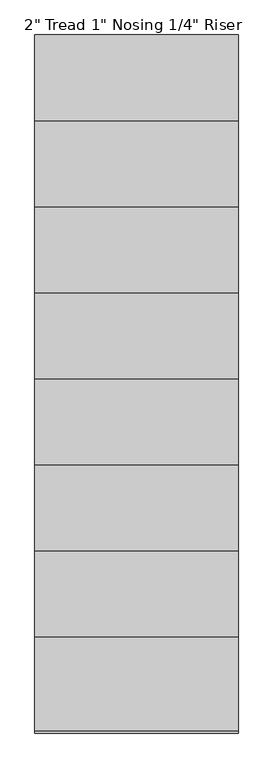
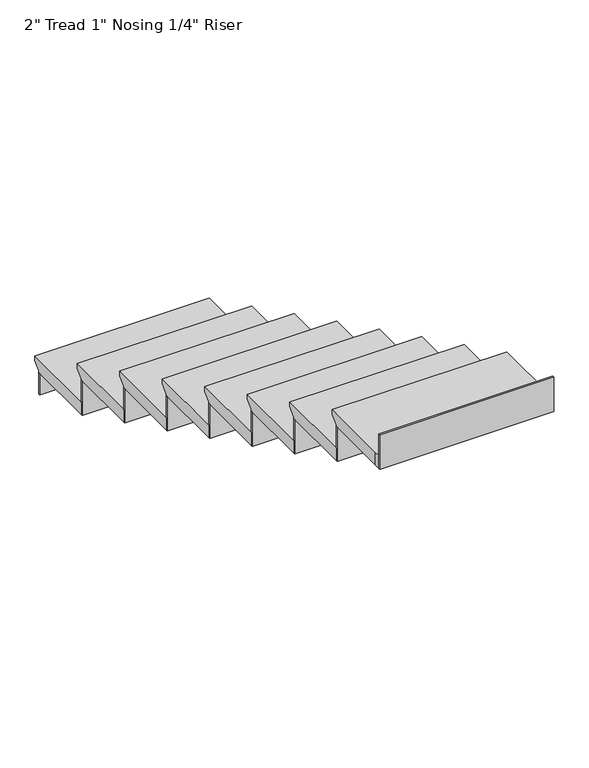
"""IFC4 building model written with IfcOpenShell, lengths in millimetres: stair flight geometry."""

from ifc_helpers import new_model, si_unit, origin, place, context, project, spatial, faceted_brep, source, transform, mapped, element, save


def stair_flight_d539902c(model_context):
    return source(origin(), model_context, "Body", "Brep", [
        faceted_brep([(-2725.6477709, -3047.8926766, 119.4954545), (-2725.6477709, -3047.8926766, 138.5454545), (-2064.400324, -3047.8926766, 138.5454545), (-2064.400324, -3047.8926766, 119.4954545), (-2725.6477709, -3073.2926766, 94.0954545), (-2064.400324, -3073.2926766, 94.0954545), (-2725.6477709, -3352.6926766, 138.5454545), (-2064.400324, -3352.6926766, 138.5454545), (-2064.400324, -3073.2926766, 87.7454545), (-2064.400324, -3352.6926766, 87.7454545), (-2725.6477709, -3352.6926766, 87.7454545), (-2725.6477709, -3073.2926766, 87.7454545)], [[[0, 1, 2, 3]], [[4, 0, 3, 5]], [[2, 1, 6, 7]], [[8, 9, 10, 11]], [[2, 7, 9, 8, 5, 3]], [[8, 11, 4, 5]], [[6, 1, 0, 4, 11, 10]], [[7, 6, 10, 9]]]),
        faceted_brep([(-2725.6477709, -3073.2926766, 87.7454545), (-2725.6477709, -3073.2926766, 0.0), (-2725.6477709, -3079.6426766, 0.0), (-2725.6477709, -3079.6426766, 87.7454545), (-2064.400324, -3073.2926766, 87.7454545), (-2064.400324, -3079.6426766, 87.7454545), (-2064.400324, -3079.6426766, 0.0), (-2064.400324, -3073.2926766, 0.0)], [[[0, 1, 2, 3]], [[4, 5, 6, 7]], [[1, 0, 4, 7]], [[2, 1, 7, 6]], [[3, 2, 6, 5]], [[0, 3, 5, 4]]]),
        faceted_brep([(-2725.6477709, -3352.6926766, 226.2909091), (-2725.6477709, -3352.6926766, 87.7454545), (-2725.6477709, -3359.0426766, 87.7454545), (-2725.6477709, -3359.0426766, 226.2909091), (-2064.400324, -3352.6926766, 226.2909091), (-2064.400324, -3359.0426766, 226.2909091), (-2064.400324, -3359.0426766, 87.7454545), (-2064.400324, -3352.6926766, 87.7454545)], [[[0, 1, 2, 3]], [[4, 5, 6, 7]], [[1, 0, 4, 7]], [[2, 1, 7, 6]], [[3, 2, 6, 5]], [[0, 3, 5, 4]]]),
        faceted_brep([(-2064.400324, -3327.2926766, 277.0909091), (-2725.6477709, -3327.2926766, 277.0909091), (-2725.6477709, -3632.0926766, 277.0909091), (-2064.400324, -3632.0926766, 277.0909091), (-2064.400324, -3352.6926766, 226.2909091), (-2064.400324, -3632.0926766, 226.2909091), (-2725.6477709, -3632.0926766, 226.2909091), (-2725.6477709, -3352.6926766, 226.2909091), (-2064.400324, -3352.6926766, 232.6409091), (-2064.400324, -3327.2926766, 258.0409091), (-2725.6477709, -3352.6926766, 232.6409091), (-2725.6477709, -3327.2926766, 258.0409091)], [[[0, 1, 2, 3]], [[4, 5, 6, 7]], [[0, 3, 5, 4, 8, 9]], [[4, 7, 10, 8]], [[2, 1, 11, 10, 7, 6]], [[3, 2, 6, 5]], [[11, 1, 0, 9]], [[10, 11, 9, 8]]]),
        faceted_brep([(-2725.6477709, -3632.0926766, 364.8363636), (-2725.6477709, -3632.0926766, 226.2909091), (-2725.6477709, -3638.4426766, 226.2909091), (-2725.6477709, -3638.4426766, 364.8363636), (-2064.400324, -3632.0926766, 364.8363636), (-2064.400324, -3638.4426766, 364.8363636), (-2064.400324, -3638.4426766, 226.2909091), (-2064.400324, -3632.0926766, 226.2909091)], [[[0, 1, 2, 3]], [[4, 5, 6, 7]], [[1, 0, 4, 7]], [[2, 1, 7, 6]], [[3, 2, 6, 5]], [[0, 3, 5, 4]]]),
        faceted_brep([(-2064.400324, -3606.6926766, 415.6363636), (-2725.6477709, -3606.6926766, 415.6363636), (-2725.6477709, -3911.4926766, 415.6363636), (-2064.400324, -3911.4926766, 415.6363636), (-2064.400324, -3632.0926766, 364.8363636), (-2064.400324, -3911.4926766, 364.8363636), (-2725.6477709, -3911.4926766, 364.8363636), (-2725.6477709, -3632.0926766, 364.8363636), (-2064.400324, -3632.0926766, 371.1863636), (-2064.400324, -3606.6926766, 396.5863636), (-2725.6477709, -3632.0926766, 371.1863636), (-2725.6477709, -3606.6926766, 396.5863636)], [[[0, 1, 2, 3]], [[4, 5, 6, 7]], [[0, 3, 5, 4, 8, 9]], [[4, 7, 10, 8]], [[2, 1, 11, 10, 7, 6]], [[3, 2, 6, 5]], [[11, 1, 0, 9]], [[10, 11, 9, 8]]]),
        faceted_brep([(-2725.6477709, -3911.4926766, 503.3818182), (-2725.6477709, -3911.4926766, 364.8363636), (-2725.6477709, -3917.8426766, 364.8363636), (-2725.6477709, -3917.8426766, 503.3818182), (-2064.400324, -3911.4926766, 503.3818182), (-2064.400324, -3917.8426766, 503.3818182), (-2064.400324, -3917.8426766, 364.8363636), (-2064.400324, -3911.4926766, 364.8363636)], [[[0, 1, 2, 3]], [[4, 5, 6, 7]], [[1, 0, 4, 7]], [[2, 1, 7, 6]], [[3, 2, 6, 5]], [[0, 3, 5, 4]]]),
        faceted_brep([(-2064.400324, -3886.0926766, 554.1818182), (-2725.6477709, -3886.0926766, 554.1818182), (-2725.6477709, -4190.8926766, 554.1818182), (-2064.400324, -4190.8926766, 554.1818182), (-2064.400324, -3911.4926766, 503.3818182), (-2064.400324, -4190.8926766, 503.3818182), (-2725.6477709, -4190.8926766, 503.3818182), (-2725.6477709, -3911.4926766, 503.3818182), (-2064.400324, -3911.4926766, 509.7318182), (-2064.400324, -3886.0926766, 535.1318182), (-2725.6477709, -3911.4926766, 509.7318182), (-2725.6477709, -3886.0926766, 535.1318182)], [[[0, 1, 2, 3]], [[4, 5, 6, 7]], [[0, 3, 5, 4, 8, 9]], [[4, 7, 10, 8]], [[2, 1, 11, 10, 7, 6]], [[3, 2, 6, 5]], [[11, 1, 0, 9]], [[10, 11, 9, 8]]]),
        faceted_brep([(-2725.6477709, -4190.8926766, 641.9272727), (-2725.6477709, -4190.8926766, 503.3818182), (-2725.6477709, -4197.2426766, 503.3818182), (-2725.6477709, -4197.2426766, 641.9272727), (-2064.400324, -4190.8926766, 641.9272727), (-2064.400324, -4197.2426766, 641.9272727), (-2064.400324, -4197.2426766, 503.3818182), (-2064.400324, -4190.8926766, 503.3818182)], [[[0, 1, 2, 3]], [[4, 5, 6, 7]], [[1, 0, 4, 7]], [[2, 1, 7, 6]], [[3, 2, 6, 5]], [[0, 3, 5, 4]]]),
        faceted_brep([(-2064.400324, -4165.4926766, 692.7272727), (-2725.6477709, -4165.4926766, 692.7272727), (-2725.6477709, -4470.2926766, 692.7272727), (-2064.400324, -4470.2926766, 692.7272727), (-2064.400324, -4190.8926766, 641.9272727), (-2064.400324, -4470.2926766, 641.9272727), (-2725.6477709, -4470.2926766, 641.9272727), (-2725.6477709, -4190.8926766, 641.9272727), (-2064.400324, -4190.8926766, 648.2772727), (-2064.400324, -4165.4926766, 673.6772727), (-2725.6477709, -4190.8926766, 648.2772727), (-2725.6477709, -4165.4926766, 673.6772727)], [[[0, 1, 2, 3]], [[4, 5, 6, 7]], [[0, 3, 5, 4, 8, 9]], [[4, 7, 10, 8]], [[2, 1, 11, 10, 7, 6]], [[3, 2, 6, 5]], [[11, 1, 0, 9]], [[10, 11, 9, 8]]]),
        faceted_brep([(-2725.6477709, -4470.2926766, 780.4727273), (-2725.6477709, -4470.2926766, 641.9272727), (-2725.6477709, -4476.6426766, 641.9272727), (-2725.6477709, -4476.6426766, 780.4727273), (-2064.400324, -4470.2926766, 780.4727273), (-2064.400324, -4476.6426766, 780.4727273), (-2064.400324, -4476.6426766, 641.9272727), (-2064.400324, -4470.2926766, 641.9272727)], [[[0, 1, 2, 3]], [[4, 5, 6, 7]], [[1, 0, 4, 7]], [[2, 1, 7, 6]], [[3, 2, 6, 5]], [[0, 3, 5, 4]]]),
        faceted_brep([(-2064.400324, -4444.8926766, 831.2727273), (-2725.6477709, -4444.8926766, 831.2727273), (-2725.6477709, -4749.6926766, 831.2727273), (-2064.400324, -4749.6926766, 831.2727273), (-2064.400324, -4470.2926766, 780.4727273), (-2064.400324, -4749.6926766, 780.4727273), (-2725.6477709, -4749.6926766, 780.4727273), (-2725.6477709, -4470.2926766, 780.4727273), (-2064.400324, -4470.2926766, 786.8227273), (-2064.400324, -4444.8926766, 812.2227273), (-2725.6477709, -4470.2926766, 786.8227273), (-2725.6477709, -4444.8926766, 812.2227273)], [[[0, 1, 2, 3]], [[4, 5, 6, 7]], [[0, 3, 5, 4, 8, 9]], [[4, 7, 10, 8]], [[2, 1, 11, 10, 7, 6]], [[3, 2, 6, 5]], [[11, 1, 0, 9]], [[10, 11, 9, 8]]]),
        faceted_brep([(-2725.6477709, -4749.6926766, 919.0181818), (-2725.6477709, -4749.6926766, 780.4727273), (-2725.6477709, -4756.0426766, 780.4727273), (-2725.6477709, -4756.0426766, 919.0181818), (-2064.400324, -4749.6926766, 919.0181818), (-2064.400324, -4756.0426766, 919.0181818), (-2064.400324, -4756.0426766, 780.4727273), (-2064.400324, -4749.6926766, 780.4727273)], [[[0, 1, 2, 3]], [[4, 5, 6, 7]], [[1, 0, 4, 7]], [[2, 1, 7, 6]], [[3, 2, 6, 5]], [[0, 3, 5, 4]]]),
        faceted_brep([(-2064.400324, -4724.2926766, 969.8181818), (-2725.6477709, -4724.2926766, 969.8181818), (-2725.6477709, -5029.0926766, 969.8181818), (-2064.400324, -5029.0926766, 969.8181818), (-2064.400324, -4749.6926766, 919.0181818), (-2064.400324, -5029.0926766, 919.0181818), (-2725.6477709, -5029.0926766, 919.0181818), (-2725.6477709, -4749.6926766, 919.0181818), (-2064.400324, -4749.6926766, 925.3681818), (-2064.400324, -4724.2926766, 950.7681818), (-2725.6477709, -4749.6926766, 925.3681818), (-2725.6477709, -4724.2926766, 950.7681818)], [[[0, 1, 2, 3]], [[4, 5, 6, 7]], [[0, 3, 5, 4, 8, 9]], [[4, 7, 10, 8]], [[2, 1, 11, 10, 7, 6]], [[3, 2, 6, 5]], [[11, 1, 0, 9]], [[10, 11, 9, 8]]]),
        faceted_brep([(-2725.6477709, -5308.4926766, 1196.1090909), (-2725.6477709, -5308.4926766, 1057.5636364), (-2725.6477709, -5314.8426766, 1057.5636364), (-2725.6477709, -5314.8426766, 1196.1090909), (-2064.400324, -5308.4926766, 1196.1090909), (-2064.400324, -5314.8426766, 1196.1090909), (-2064.400324, -5314.8426766, 1057.5636364), (-2064.400324, -5308.4926766, 1057.5636364)], [[[0, 1, 2, 3]], [[4, 5, 6, 7]], [[1, 0, 4, 7]], [[2, 1, 7, 6]], [[3, 2, 6, 5]], [[0, 3, 5, 4]]]),
        faceted_brep([(-2725.6477709, -5029.0926766, 1057.5636364), (-2725.6477709, -5029.0926766, 919.0181818), (-2725.6477709, -5035.4426766, 919.0181818), (-2725.6477709, -5035.4426766, 1057.5636364), (-2064.400324, -5029.0926766, 1057.5636364), (-2064.400324, -5035.4426766, 1057.5636364), (-2064.400324, -5035.4426766, 919.0181818), (-2064.400324, -5029.0926766, 919.0181818)], [[[0, 1, 2, 3]], [[4, 5, 6, 7]], [[1, 0, 4, 7]], [[2, 1, 7, 6]], [[3, 2, 6, 5]], [[0, 3, 5, 4]]]),
        faceted_brep([(-2064.400324, -5308.4926766, 1108.3636364), (-2064.400324, -5283.0926766, 1108.3636364), (-2064.400324, -5003.6926766, 1108.3636364), (-2725.6477709, -5003.6926766, 1108.3636364), (-2725.6477709, -5283.0926766, 1108.3636364), (-2725.6477709, -5308.4926766, 1108.3636364), (-2064.400324, -5283.0926766, 1057.5636364), (-2064.400324, -5308.4926766, 1057.5636364), (-2725.6477709, -5308.4926766, 1057.5636364), (-2725.6477709, -5283.0926766, 1057.5636364), (-2725.6477709, -5029.0926766, 1057.5636364), (-2064.400324, -5029.0926766, 1057.5636364), (-2725.6477709, -5029.0926766, 1063.9136364), (-2064.400324, -5029.0926766, 1063.9136364), (-2725.6477709, -5003.6926766, 1089.3136364), (-2064.400324, -5003.6926766, 1089.3136364)], [[[0, 1, 2, 3, 4, 5]], [[6, 7, 8, 9, 10, 11]], [[1, 0, 7, 6]], [[11, 10, 12, 13]], [[4, 3, 14, 12, 10, 9]], [[5, 4, 9, 8]], [[0, 5, 8, 7]], [[14, 3, 2, 15]], [[12, 14, 15, 13]], [[2, 1, 6, 11, 13, 15]]]),
    ])


if __name__ == "__main__":
    model = new_model("IFC4")
    model_context = context("Model", 3, world=origin())
    ifc_project = project(units=[si_unit("LENGTHUNIT", "METRE", prefix="MILLI")], contexts=[model_context])
    site = spatial("IfcSite", under=ifc_project)
    building = spatial("IfcBuilding", under=site)
    placement = place(None, origin())
    stair_flight_shape = stair_flight_d539902c(model_context)
    element("IfcStairFlight", 1, ObjectType="2\" Tread 1\" Nosing 1/4\" Riser", at=placement, inside=building, context=model_context, shape_type="MappedRepresentation", body=[
        mapped(stair_flight_shape, transform((0.0, 0.0, 0.0), x_axis=(1.0, 0.0, 0.0), y_axis=(0.0, 1.0, 0.0), z_axis=(0.0, 0.0, 1.0))),
    ])
    save(model, "model.ifc")
